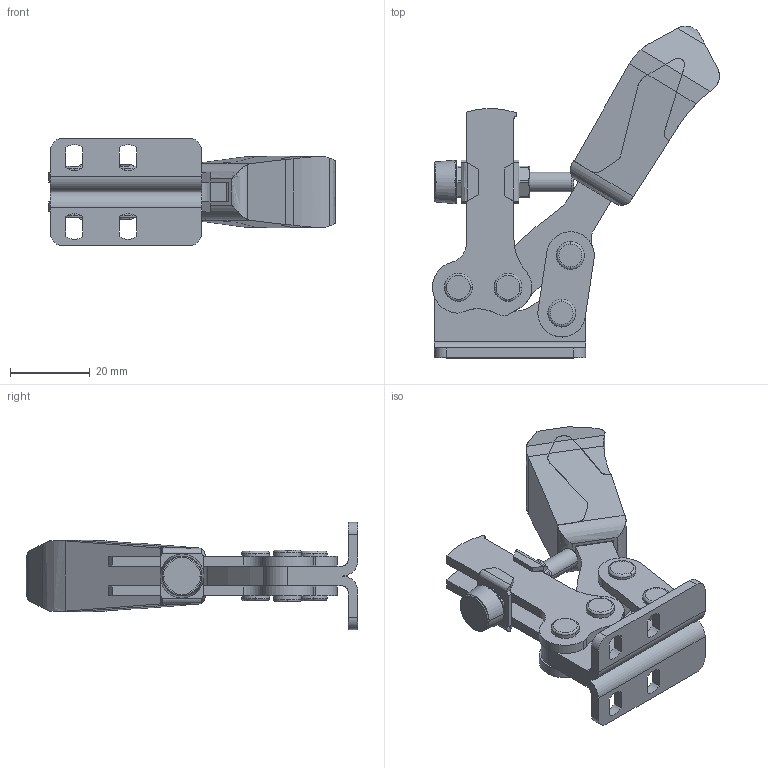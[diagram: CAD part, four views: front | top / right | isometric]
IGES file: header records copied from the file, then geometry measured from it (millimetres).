
Start section: 3D InterOp IGES (v. 2019 1.0.1), Spatial Corp. Copyright (c) 1999-2017.
Global section: file name: HWS201_1_open.igs; native system: Spatial Corp.; preprocessor: 3D InterOp GENERIC/IGES 3.0; author: Noname; organization: Noname; date: 20200706.112142; units: metre
Bounding box: 72.18 x 83.47 x 27 mm (x, y, z)
Surface area: 17074.8 mm2 (no closed solid volume)
Topology: 0 solids, 0 shells, 333 faces, 1796 edges, 1792 vertices
Faces by surface type: revolution 174, extrusion 159
